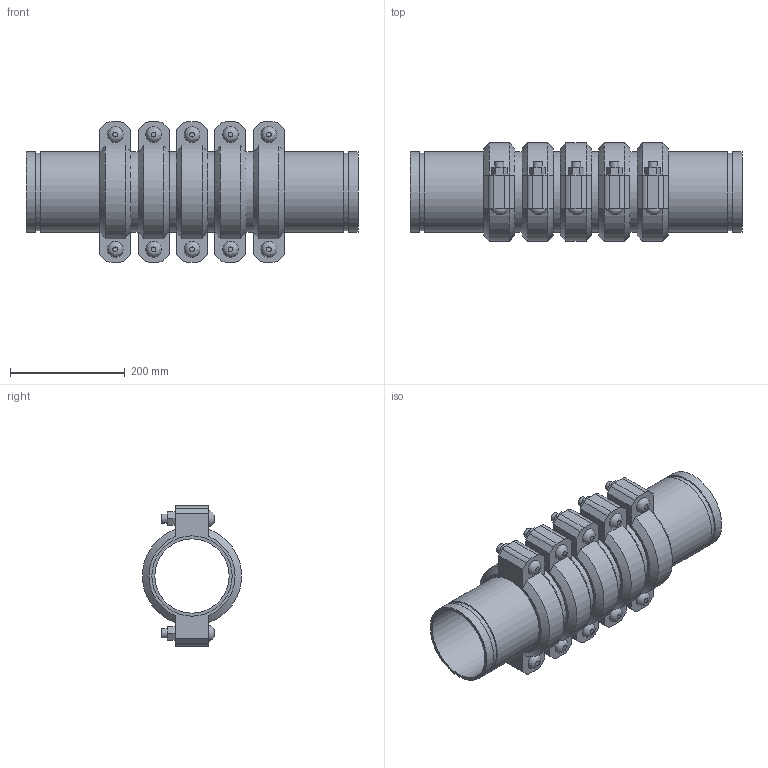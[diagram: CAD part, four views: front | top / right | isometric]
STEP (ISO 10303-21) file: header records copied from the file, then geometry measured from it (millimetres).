
FILE_DESCRIPTION(/* description */ ('VIC EXPANSION JOINT 5 COUPLINGS EXPANDED STYLE 155 (OGS)','CAx-IF Rec.Pracs.---Representation and Presentation of Product Manufacturing Information (PMI)---4.0---2014-10-13'),/* implementation_level */ '2;1');
FILE_NAME(/* name */ 'C:\Users\kkamble\AppData\Roaming\Autodesk\ApplicationPlugins\Victaulic.Temp\A557\Victaulic_IPS_Expansion Joint_Expanded_5 Couplings_Style 155 (OGS)_05.0 (139.7) (125).stp',/* time_stamp */ '2021-06-27T00:02:49+02:00',/* author */ ('kkamble'),/* organization */ ('Victaulic'),/* preprocessor_version */ 'ST-DEVELOPER v17.2',/* originating_system */ 'Autodesk Inventor 2019',/* authorisation */ '');
FILE_SCHEMA (('AP242_MANAGED_MODEL_BASED_3D_ENGINEERING_MIM_LF { 1 0 10303 442 1 1 4 }'));
Length unit declared in the file: inch
Products named in the file (4): 155-05.0 (139.7); Nipple-05.0 (139.7); Nipple-05.0 (139.7)_1; 075-05.0 (139.7)
Assembly tree (11 placements, depth 2):
  155-05.0 (139.7)
    Nipple-05.0 (139.7)  x2
    Nipple-05.0 (139.7)_1  x4
    075-05.0 (139.7)  x5
Bounding box: 577.6 x 172.14 x 243.59 mm (x, y, z)
Volume: 4294061 mm3; surface area: 1012444.3 mm2
Topology: 11 solids, 21 shells, 357 faces, 845 edges, 594 vertices
Faces by surface type: plane 216, cylinder 111, cone 20, bspline 10
Full cylindrical faces by diameter (mm): 15.875 x20, 17.424 x10, 129.388 x6, 133.35 x5, 135.484 x12, 139.7 x28
Entity records: 2801 total; most frequent: CARTESIAN_POINT 495, DIRECTION 465, ORIENTED_EDGE 386, EDGE_CURVE 193, AXIS2_PLACEMENT_3D 186, VERTEX_POINT 138, EDGE_LOOP 107, LINE 93
